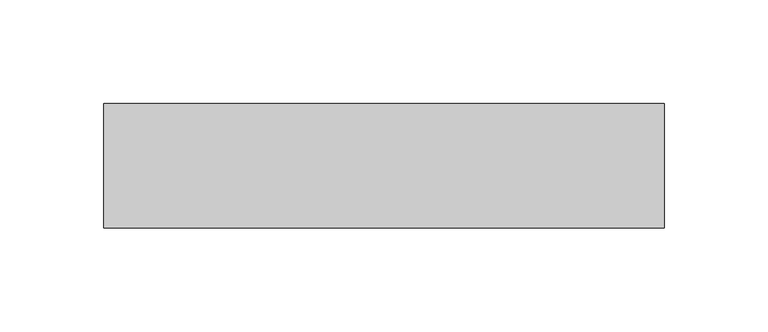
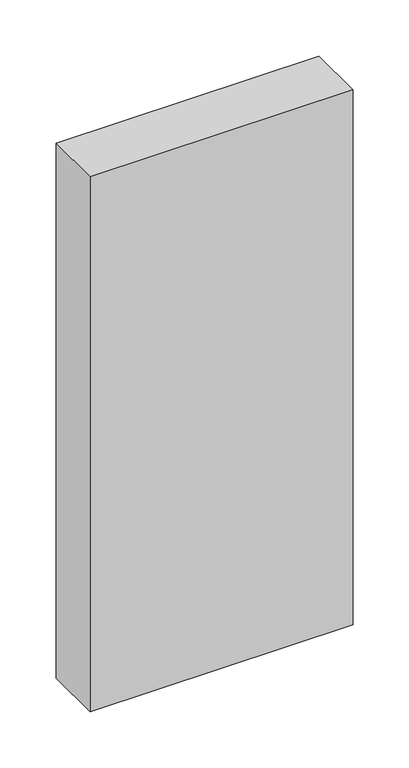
"""IFC4 building model written with IfcOpenShell, lengths in millimetres: plate geometry, Системная панель : Алюкобонд серый."""

import ifcopenshell
import ifcopenshell.guid

model = None  # the IFC model being written
_history = None  # IfcOwnerHistory: only IFC2X3 demands one
_inside = {}  # id of a spatial element -> (the spatial element, [elements in it])
_under = {}  # id of a project, library or spatial element -> (it, [spatial elements below it])
_declared = {}  # id of a project -> (the project, [libraries it declares])
_typed = {}  # id of a type object -> (the type object, [elements of that type])
_made_of = {}  # id of a material, layer set ... -> (it, [elements and type objects made of it])


def new_model(schema):
    """Start an empty IFC model of exactly this schema.

    Asked for "IFC4X3", IfcOpenShell would pick the latest addendum, in which some entities
    have other attributes; the version numbers below select the first issue.
    IFC2X3 requires an IfcOwnerHistory on every rooted entity: one is made here for all.
    """
    global model, _history
    if schema == "IFC4X3":
        model = ifcopenshell.file(schema_version=(4, 3, 0, 0))
    else:
        model = ifcopenshell.file(schema=schema)
    _inside.clear()
    _under.clear()
    _declared.clear()
    _typed.clear()
    _made_of.clear()
    _history = None
    if model.schema == "IFC2X3":
        org = make("IfcOrganization", Name="unknown")
        user = make(
            "IfcPersonAndOrganization",
            ThePerson=make("IfcPerson", FamilyName="unknown"),
            TheOrganization=org,
        )
        app = make(
            "IfcApplication",
            ApplicationDeveloper=org,
            Version="unknown",
            ApplicationFullName="unknown",
            ApplicationIdentifier="unknown",
        )
        _history = make(
            "IfcOwnerHistory",
            OwningUser=user,
            OwningApplication=app,
            ChangeAction="ADDED",
            CreationDate=0,
        )
    return model


def make(cls, **values):
    """One entity of the class cls with the attributes given. An attribute that is None is left unset."""
    return model.create_entity(
        cls, **{name: value for name, value in values.items() if value is not None}
    )


def rooted(cls, **values):
    """An entity with a GlobalId (a new one), such as an element, a storey or a relation."""
    return make(cls, GlobalId=ifcopenshell.guid.new(), OwnerHistory=_history, **values)


def si_unit(unit_type, name, prefix=None):
    """IfcSIUnit, for example si_unit("LENGTHUNIT", "METRE", prefix="MILLI")."""
    return make("IfcSIUnit", UnitType=unit_type, Prefix=prefix, Name=name)


def assignment(units):
    """IfcUnitAssignment: the units of a project."""
    return None if units is None else make("IfcUnitAssignment", Units=units)


def point(xyz):
    """IfcCartesianPoint."""
    return None if xyz is None else make("IfcCartesianPoint", Coordinates=xyz)


def direction(xyz):
    """IfcDirection."""
    return None if xyz is None else make("IfcDirection", DirectionRatios=xyz)


def frame(location, z_axis=None, x_axis=None):
    """IfcAxis2Placement3D, a coordinate frame: its origin and axes. An axis left out is left unset."""
    return make(
        "IfcAxis2Placement3D",
        Location=point(location),
        Axis=direction(z_axis),
        RefDirection=direction(x_axis),
    )


def origin():
    """The frame at (0, 0, 0) with its axes left unset."""
    return frame((0.0, 0.0, 0.0))


def origin_with_axes():
    """The frame at (0, 0, 0) with the z axis (0, 0, 1) and the x axis (1, 0, 0) written out."""
    return frame((0.0, 0.0, 0.0), z_axis=(0.0, 0.0, 1.0), x_axis=(1.0, 0.0, 0.0))


def place(relative_to, where):
    """IfcLocalPlacement: puts the frame where relative to a parent placement (None: the world)."""
    return make(
        "IfcLocalPlacement", PlacementRelTo=relative_to, RelativePlacement=where
    )


def context(
    kind, dimensions, precision=None, world=None, true_north=None, identifier=None
):
    """IfcGeometricRepresentationContext, for example the 3D "Model" context."""
    return make(
        "IfcGeometricRepresentationContext",
        ContextIdentifier=identifier,
        ContextType=kind,
        CoordinateSpaceDimension=dimensions,
        Precision=precision,
        WorldCoordinateSystem=world,
        TrueNorth=true_north,
    )


def project(units=None, contexts=None):
    """IfcProject with its units and contexts."""
    return rooted(
        "IfcProject",
        Name="project",
        RepresentationContexts=contexts,
        UnitsInContext=assignment(units),
    )


def spatial(cls, under=None, at=None, **own):
    """A site, building, storey or space (cls), placed at a placement, below another one or the project."""
    s = rooted(cls, ObjectPlacement=at, **own)
    if under is not None:
        _under.setdefault(under.id(), (under, []))[1].append(s)
    return s


def polyline(points):
    """IfcPolyline through the points."""
    return make("IfcPolyline", Points=[point(p) for p in points])


def outline(outer, holes=None, kind="AREA"):
    """IfcArbitraryClosedProfileDef: a profile drawn as a closed curve; with holes, ...WithVoids."""
    if holes is None:
        return make("IfcArbitraryClosedProfileDef", ProfileType=kind, OuterCurve=outer)
    return make(
        "IfcArbitraryProfileDefWithVoids",
        ProfileType=kind,
        OuterCurve=outer,
        InnerCurves=holes,
    )


def extrude(swept, where, along, depth):
    """IfcExtrudedAreaSolid: the profile swept, set in the frame where, extruded along a direction by depth."""
    return make(
        "IfcExtrudedAreaSolid",
        SweptArea=swept,
        Position=where,
        ExtrudedDirection=direction(along),
        Depth=depth,
    )


def shape(context_of_items, identifier, shape_type, items):
    """IfcShapeRepresentation: the items that make up one representation, for example the "Body"."""
    return make(
        "IfcShapeRepresentation",
        ContextOfItems=context_of_items,
        RepresentationIdentifier=identifier,
        RepresentationType=shape_type,
        Items=items,
    )


def source(mapping_origin, context_of_items, identifier, shape_type, items):
    """IfcRepresentationMap: a shape defined once, which mapped items show again and again."""
    return make(
        "IfcRepresentationMap",
        MappingOrigin=mapping_origin,
        MappedRepresentation=shape(context_of_items, identifier, shape_type, items),
    )


def transform(
    local_origin,
    x_axis=None,
    y_axis=None,
    z_axis=None,
    scale=None,
    scale2=None,
    scale3=None,
    uniform=True,
):
    """IfcCartesianTransformationOperator3D, or its non-uniform kind. x_axis, y_axis, z_axis: its Axis1, 2, 3."""
    if uniform:
        return make(
            "IfcCartesianTransformationOperator3D",
            Axis1=direction(x_axis),
            Axis2=direction(y_axis),
            LocalOrigin=point(local_origin),
            Scale=scale,
            Axis3=direction(z_axis),
        )
    return make(
        "IfcCartesianTransformationOperator3DnonUniform",
        Axis1=direction(x_axis),
        Axis2=direction(y_axis),
        LocalOrigin=point(local_origin),
        Scale=scale,
        Axis3=direction(z_axis),
        Scale2=scale2,
        Scale3=scale3,
    )


def mapped(mapping_source, mapping_target):
    """IfcMappedItem: shows the shape of a source again, moved by a transform."""
    return make(
        "IfcMappedItem", MappingSource=mapping_source, MappingTarget=mapping_target
    )


def made_of(thing, what):
    """Note that an element or type object is made of a material, layer set ...; save() writes the relation."""
    if what is not None:
        _made_of.setdefault(what.id(), (what, []))[1].append(thing)
    return thing


def element(
    cls,
    number,
    at=None,
    inside=None,
    cuts=None,
    type_object=None,
    material=None,
    context=None,
    identifier="Body",
    shape_type=None,
    held_by="IfcProductDefinitionShape",
    body=None,
    shapes=None,
    **own,
):
    """One element of the class cls, such as IfcWall. Its Tag is "e" and its number.

    at: its placement. inside: the storey or other place that contains it. cuts: it is an
    opening in that element (IfcRelVoidsElement). A single representation is given by context,
    identifier, shape_type and body (its items); several are given by shapes. held_by: the class
    of the entity that holds the representations. save() writes the other relations.
    """
    e = rooted(cls, Tag="e%d" % number, ObjectPlacement=at, **own)
    if body is not None:
        shapes = [shape(context, identifier, shape_type, body)]
    if shapes is not None:
        e.Representation = make(held_by, Representations=shapes)
    if inside is not None:
        _inside.setdefault(inside.id(), (inside, []))[1].append(e)
    if cuts is not None:
        rooted(
            "IfcRelVoidsElement", RelatingBuildingElement=cuts, RelatedOpeningElement=e
        )
    if type_object is not None:
        _typed.setdefault(type_object.id(), (type_object, []))[1].append(e)
    return made_of(e, material)


def aggregate(whole, parts):
    """IfcRelAggregates: a whole, such as a stair, and the parts it consists of."""
    return rooted("IfcRelAggregates", RelatingObject=whole, RelatedObjects=parts)


def save(model, path):
    """Write the relations noted so far, then the file.

    IfcRelAggregates (storeys below a building ...), IfcRelContainedInSpatialStructure (elements
    in a storey), IfcRelDefinesByType, IfcRelAssociatesMaterial and IfcRelDeclares: one each for
    every whole, place, type object, material and project.
    """
    for whole, parts in _under.values():
        aggregate(whole, parts)
    for where, things in _inside.values():
        rooted(
            "IfcRelContainedInSpatialStructure",
            RelatedElements=things,
            RelatingStructure=where,
        )
    for kind, things in _typed.values():
        rooted("IfcRelDefinesByType", RelatedObjects=things, RelatingType=kind)
    for what, things in _made_of.values():
        rooted("IfcRelAssociatesMaterial", RelatedObjects=things, RelatingMaterial=what)
    for by, libraries in _declared.values():
        rooted("IfcRelDeclares", RelatingContext=by, RelatedDefinitions=libraries)
    model.write(path)


def plate_d1264758(model_context):
    return source(origin(), model_context, "Body", "SweptSolid", [
        extrude(outline(polyline([(135.0, -10.5), (-135.0, -10.5), (-135.0, 49.5), (135.0, 49.5), (135.0, -10.5)])), origin_with_axes(), (0.0, 0.0, 1.0), 580.0),
    ])


if __name__ == "__main__":
    model = new_model("IFC4")
    model_context = context("Model", 3, world=origin())
    ifc_project = project(units=[si_unit("LENGTHUNIT", "METRE", prefix="MILLI")], contexts=[model_context])
    site = spatial("IfcSite", under=ifc_project)
    building = spatial("IfcBuilding", under=site)
    placement = place(None, origin())
    plate_shape = plate_d1264758(model_context)
    element("IfcPlate", 1, ObjectType="Системная панель : Алюкобонд серый", at=placement, inside=building, context=model_context, shape_type="MappedRepresentation", body=[
        mapped(plate_shape, transform((0.0, 0.0, 0.0), x_axis=(1.0, 0.0, 0.0), y_axis=(0.0, 1.0, 0.0), z_axis=(0.0, 0.0, 1.0))),
    ])
    save(model, "model.ifc")
